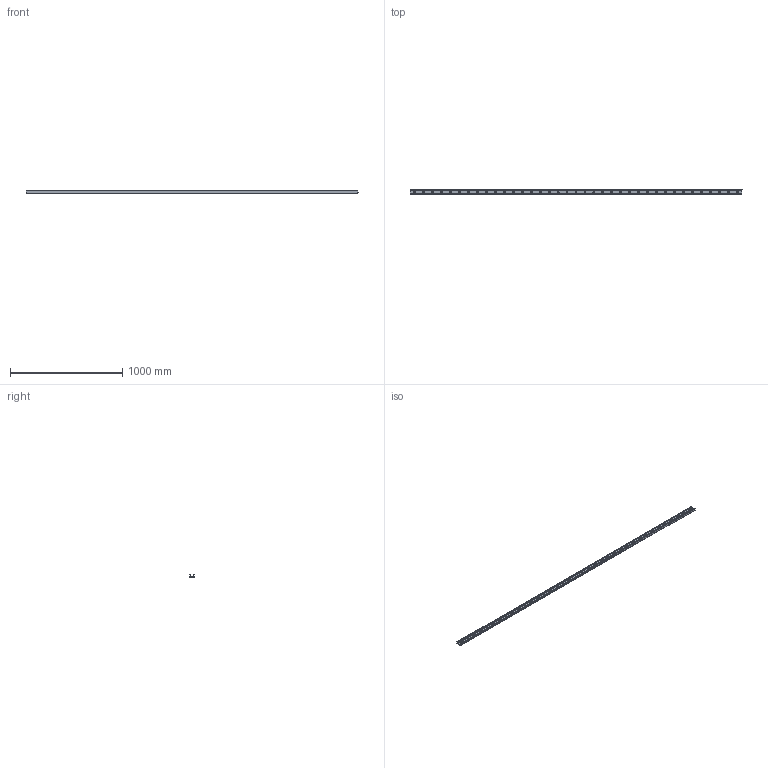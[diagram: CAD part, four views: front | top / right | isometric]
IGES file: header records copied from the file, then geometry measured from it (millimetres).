
Start section: SolidWorks IGES file using analytic representation for surfaces
Global section: file name: C:\Users\IanO\Desktop\43\L1943.ULV43_v2_20180121_IGES\L1943.ULV43-2960.igs; native system: SolidWorks 2017; preprocessor: SolidWorks 2017; author: IanO; date: 190121.090436; units: millimetre
Bounding box: 2960 x 43 x 21 mm (x, y, z)
Surface area: 459269.7 mm2 (no closed solid volume)
Topology: 0 solids, 0 shells, 174 faces, 3254 edges, 3254 vertices
Faces by surface type: revolution 161, bspline 13
